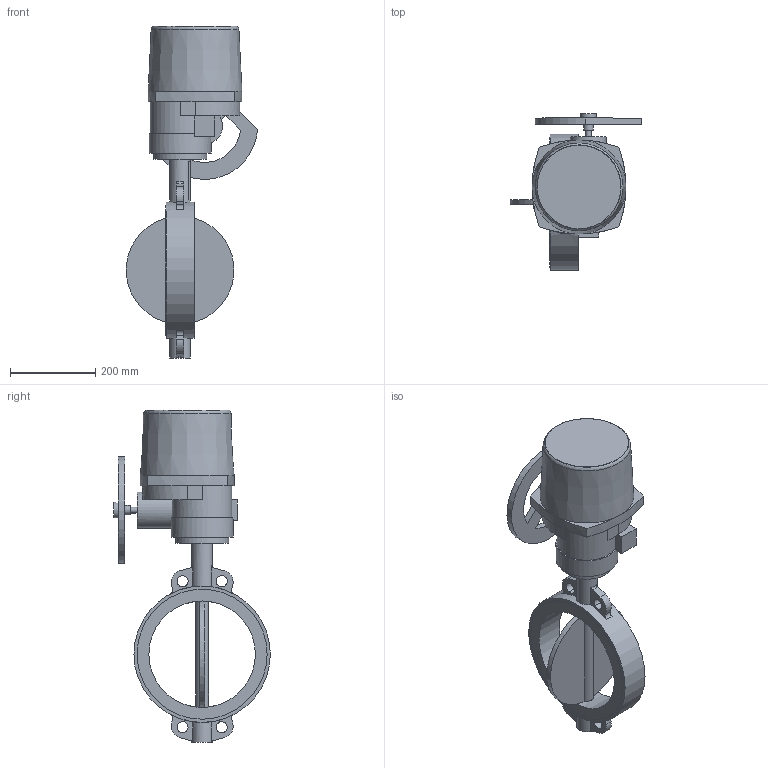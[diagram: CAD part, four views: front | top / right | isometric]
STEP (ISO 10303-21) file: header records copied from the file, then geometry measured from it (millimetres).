
FILE_DESCRIPTION(('STEP AP203'), '1');
FILE_NAME('青蜮铕 015WDN250+菹 QT50-1', '', ('UNSPECIFIED'), ('UNSPECIFIED'), 'ASCON STEP Converter 1.6', 'ASCON Math Kernel', '');
FILE_SCHEMA(('CONFIG_CONTROL_DESIGN'));
Length unit declared in the file: millimetre
Bounding box: 307.85 x 367.5 x 779 mm (x, y, z)
Volume: 10133651.5 mm3; surface area: 744795.6 mm2
Topology: 1 solids, 2 shells, 729 faces, 2123 edges, 1367 vertices
Faces by surface type: cylinder 507, plane 213, bspline 6, torus 2, cone 1
Full cylindrical faces by diameter (mm): 10 x4, 12 x4, 14 x1, 22 x1, 28.6 x1, 36 x1, 48 x2, 70 x1, 85 x1, 125 x1, 145 x1, 250 x1, 305 x2, 320 x1
Entity records: 31807 total; most frequent: CARTESIAN_POINT 5818, DIRECTION 4586, ORIENTED_EDGE 4123, EDGE_CURVE 2093, AXIS2_PLACEMENT_3D 1809, VERTEX_POINT 1364, CIRCLE 1085, LINE 968
